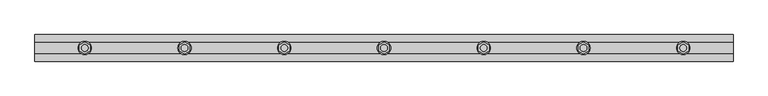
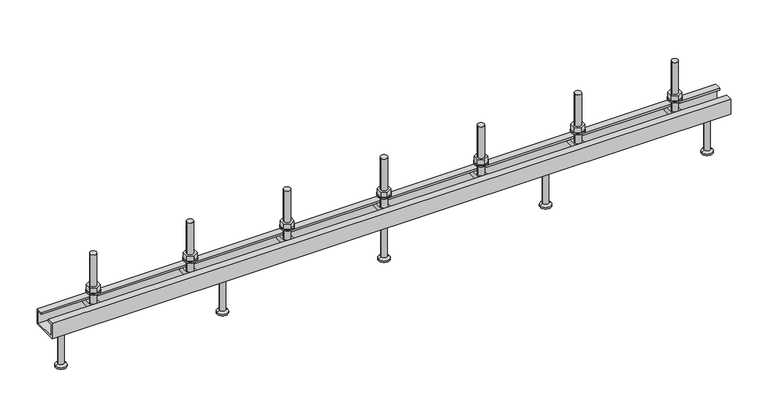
"""IFC4 building model written with IfcOpenShell, lengths in millimetres: fastener geometry, JTA-K JORDAHL® AnchorChannels : JTA-K L=1050 mm."""

from ifc_helpers import new_model, si_unit, point, frame, frame_2d, origin, place, context, project, spatial, polyline, circle_curve, trimmed, segment, composite_curve, outline, extrude, source, transform, mapped, element, save
from ifc_brep_helpers import plane_surface, cylinder_surface, revolved_surface, advanced_brep


def fastener_5b8b43c4(model_context):
    return source(origin(), model_context, "Body", "SolidModel", [
        extrude(outline(polyline([(825.0, -9.2376043), (817.0, -4.6188022), (817.0, 4.6188022), (825.0, 9.2376043), (833.0, 4.6188022), (833.0, -4.6188022), (825.0, -9.2376043)]), holes=[composite_curve([segment(trimmed(circle_curve(frame_2d((825.0, 0.0)), 5.0), [point((820.0, 0.0))], [point((830.0, 0.0))], True, "CARTESIAN"), True, "CONTINUOUS"), segment(trimmed(circle_curve(frame_2d((825.0, 0.0)), 5.0), [point((830.0, 0.0))], [point((820.0, 0.0))], True, "CARTESIAN"), True, "CONTINUOUS")], self_intersect=False)]), frame((0.0, 0.0, 17.0), z_axis=(0.0, 0.0, 1.0), x_axis=(1.0, 0.0, 0.0)), (0.0, 0.0, 1.0), 8.4),
        extrude(outline(composite_curve([segment(trimmed(circle_curve(frame_2d((825.0, 0.0)), 10.0), [point((815.0, 0.0))], [point((835.0, 0.0))], False, "CARTESIAN"), True, "CONTINUOUS"), segment(trimmed(circle_curve(frame_2d((825.0, 0.0)), 10.0), [point((835.0, 0.0))], [point((815.0, 0.0))], False, "CARTESIAN"), True, "CONTINUOUS")], self_intersect=False), holes=[composite_curve([segment(trimmed(circle_curve(frame_2d((825.0, 0.0)), 5.25), [point((819.75, 0.0))], [point((830.25, 0.0))], True, "CARTESIAN"), True, "CONTINUOUS"), segment(trimmed(circle_curve(frame_2d((825.0, 0.0)), 5.25), [point((830.25, 0.0))], [point((819.75, 0.0))], True, "CARTESIAN"), True, "CONTINUOUS")], self_intersect=False)]), frame((0.0, 0.0, 15.0), z_axis=(0.0, 0.0, 1.0), x_axis=(1.0, 0.0, 0.0)), (0.0, 0.0, 1.0), 2.0),
        extrude(outline(polyline([(675.0, -9.2376043), (667.0, -4.6188022), (667.0, 4.6188022), (675.0, 9.2376043), (683.0, 4.6188022), (683.0, -4.6188022), (675.0, -9.2376043)]), holes=[composite_curve([segment(trimmed(circle_curve(frame_2d((675.0, 0.0)), 5.0), [point((670.0, 0.0))], [point((680.0, 0.0))], True, "CARTESIAN"), True, "CONTINUOUS"), segment(trimmed(circle_curve(frame_2d((675.0, 0.0)), 5.0), [point((680.0, 0.0))], [point((670.0, 0.0))], True, "CARTESIAN"), True, "CONTINUOUS")], self_intersect=False)]), frame((0.0, 0.0, 17.0), z_axis=(0.0, 0.0, 1.0), x_axis=(1.0, 0.0, 0.0)), (0.0, 0.0, 1.0), 8.4),
        extrude(outline(composite_curve([segment(trimmed(circle_curve(frame_2d((675.0, 0.0)), 10.0), [point((665.0, 0.0))], [point((685.0, 0.0))], False, "CARTESIAN"), True, "CONTINUOUS"), segment(trimmed(circle_curve(frame_2d((675.0, 0.0)), 10.0), [point((685.0, 0.0))], [point((665.0, 0.0))], False, "CARTESIAN"), True, "CONTINUOUS")], self_intersect=False), holes=[composite_curve([segment(trimmed(circle_curve(frame_2d((675.0, 0.0)), 5.25), [point((669.75, 0.0))], [point((680.25, 0.0))], True, "CARTESIAN"), True, "CONTINUOUS"), segment(trimmed(circle_curve(frame_2d((675.0, 0.0)), 5.25), [point((680.25, 0.0))], [point((669.75, 0.0))], True, "CARTESIAN"), True, "CONTINUOUS")], self_intersect=False)]), frame((0.0, 0.0, 15.0), z_axis=(0.0, 0.0, 1.0), x_axis=(1.0, 0.0, 0.0)), (0.0, 0.0, 1.0), 2.0),
        extrude(outline(polyline([(525.0, -9.2376043), (517.0, -4.6188022), (517.0, 4.6188022), (525.0, 9.2376043), (533.0, 4.6188022), (533.0, -4.6188022), (525.0, -9.2376043)]), holes=[composite_curve([segment(trimmed(circle_curve(frame_2d((525.0, 0.0)), 5.0), [point((520.0, 0.0))], [point((530.0, 0.0))], True, "CARTESIAN"), True, "CONTINUOUS"), segment(trimmed(circle_curve(frame_2d((525.0, 0.0)), 5.0), [point((530.0, 0.0))], [point((520.0, 0.0))], True, "CARTESIAN"), True, "CONTINUOUS")], self_intersect=False)]), frame((0.0, 0.0, 17.0), z_axis=(0.0, 0.0, 1.0), x_axis=(1.0, 0.0, 0.0)), (0.0, 0.0, 1.0), 8.4),
        extrude(outline(composite_curve([segment(trimmed(circle_curve(frame_2d((525.0, 0.0)), 10.0), [point((515.0, 0.0))], [point((535.0, 0.0))], False, "CARTESIAN"), True, "CONTINUOUS"), segment(trimmed(circle_curve(frame_2d((525.0, 0.0)), 10.0), [point((535.0, 0.0))], [point((515.0, 0.0))], False, "CARTESIAN"), True, "CONTINUOUS")], self_intersect=False), holes=[composite_curve([segment(trimmed(circle_curve(frame_2d((525.0, 0.0)), 5.25), [point((519.75, 0.0))], [point((530.25, 0.0))], True, "CARTESIAN"), True, "CONTINUOUS"), segment(trimmed(circle_curve(frame_2d((525.0, 0.0)), 5.25), [point((530.25, 0.0))], [point((519.75, 0.0))], True, "CARTESIAN"), True, "CONTINUOUS")], self_intersect=False)]), frame((0.0, 0.0, 15.0), z_axis=(0.0, 0.0, 1.0), x_axis=(1.0, 0.0, 0.0)), (0.0, 0.0, 1.0), 2.0),
        extrude(outline(polyline([(375.0, -9.2376043), (367.0, -4.6188022), (367.0, 4.6188022), (375.0, 9.2376043), (383.0, 4.6188022), (383.0, -4.6188022), (375.0, -9.2376043)]), holes=[composite_curve([segment(trimmed(circle_curve(frame_2d((375.0, 0.0)), 5.0), [point((370.0, 0.0))], [point((380.0, 0.0))], True, "CARTESIAN"), True, "CONTINUOUS"), segment(trimmed(circle_curve(frame_2d((375.0, 0.0)), 5.0), [point((380.0, 0.0))], [point((370.0, 0.0))], True, "CARTESIAN"), True, "CONTINUOUS")], self_intersect=False)]), frame((0.0, 0.0, 17.0), z_axis=(0.0, 0.0, 1.0), x_axis=(1.0, 0.0, 0.0)), (0.0, 0.0, 1.0), 8.4),
        extrude(outline(composite_curve([segment(trimmed(circle_curve(frame_2d((375.0, 0.0)), 10.0), [point((365.0, 0.0))], [point((385.0, 0.0))], False, "CARTESIAN"), True, "CONTINUOUS"), segment(trimmed(circle_curve(frame_2d((375.0, 0.0)), 10.0), [point((385.0, 0.0))], [point((365.0, 0.0))], False, "CARTESIAN"), True, "CONTINUOUS")], self_intersect=False), holes=[composite_curve([segment(trimmed(circle_curve(frame_2d((375.0, 0.0)), 5.25), [point((369.75, 0.0))], [point((380.25, 0.0))], True, "CARTESIAN"), True, "CONTINUOUS"), segment(trimmed(circle_curve(frame_2d((375.0, 0.0)), 5.25), [point((380.25, 0.0))], [point((369.75, 0.0))], True, "CARTESIAN"), True, "CONTINUOUS")], self_intersect=False)]), frame((0.0, 0.0, 15.0), z_axis=(0.0, 0.0, 1.0), x_axis=(1.0, 0.0, 0.0)), (0.0, 0.0, 1.0), 2.0),
        extrude(outline(polyline([(225.0, -9.2376043), (217.0, -4.6188022), (217.0, 4.6188022), (225.0, 9.2376043), (233.0, 4.6188022), (233.0, -4.6188022), (225.0, -9.2376043)]), holes=[composite_curve([segment(trimmed(circle_curve(frame_2d((225.0, 0.0)), 5.0), [point((220.0, 0.0))], [point((230.0, 0.0))], True, "CARTESIAN"), True, "CONTINUOUS"), segment(trimmed(circle_curve(frame_2d((225.0, 0.0)), 5.0), [point((230.0, 0.0))], [point((220.0, 0.0))], True, "CARTESIAN"), True, "CONTINUOUS")], self_intersect=False)]), frame((0.0, 0.0, 17.0), z_axis=(0.0, 0.0, 1.0), x_axis=(1.0, 0.0, 0.0)), (0.0, 0.0, 1.0), 8.4),
        extrude(outline(composite_curve([segment(trimmed(circle_curve(frame_2d((225.0, 0.0)), 10.0), [point((215.0, 0.0))], [point((235.0, 0.0))], False, "CARTESIAN"), True, "CONTINUOUS"), segment(trimmed(circle_curve(frame_2d((225.0, 0.0)), 10.0), [point((235.0, 0.0))], [point((215.0, 0.0))], False, "CARTESIAN"), True, "CONTINUOUS")], self_intersect=False), holes=[composite_curve([segment(trimmed(circle_curve(frame_2d((225.0, 0.0)), 5.25), [point((219.75, 0.0))], [point((230.25, 0.0))], True, "CARTESIAN"), True, "CONTINUOUS"), segment(trimmed(circle_curve(frame_2d((225.0, 0.0)), 5.25), [point((230.25, 0.0))], [point((219.75, 0.0))], True, "CARTESIAN"), True, "CONTINUOUS")], self_intersect=False)]), frame((0.0, 0.0, 15.0), z_axis=(0.0, 0.0, 1.0), x_axis=(1.0, 0.0, 0.0)), (0.0, 0.0, 1.0), 2.0),
        advanced_brep(
        [(832.0, -16.0, -3.0), (832.0, -16.0, -11.0), (832.0, 16.0, -11.0), (832.0, 16.0, -3.0), (818.0, -16.0, -3.0), (818.0, 16.0, -3.0), (818.0, 16.0, -11.0), (818.0, -16.0, -11.0), (830.0, 0.0, -3.0), (820.0, 0.0, -3.0), (820.0, 0.0, 77.0), (830.0, 0.0, 77.0)],
        [
            (0, 1),
            (1, 2),
            (2, 3),
            (3, 0),
            (4, 5),
            (5, 6),
            (6, 7),
            (7, 4),
            (3, 5),
            (4, 0),
            (8, 9, circle_curve(frame((825.0, 0.0, -3.0), z_axis=(0.0, 0.0, -1.0), x_axis=(1.0, 0.0, 0.0)), 5.0)),
            (9, 8, circle_curve(frame((825.0, 0.0, -3.0), z_axis=(0.0, 0.0, -1.0), x_axis=(1.0, 0.0, 0.0)), 5.0)),
            (2, 6),
            (1, 7),
            (10, 11, circle_curve(frame((825.0, 0.0, 77.0), z_axis=(0.0, 0.0, 1.0), x_axis=(1.0, 0.0, 0.0)), 5.0)),
            (11, 10, circle_curve(frame((825.0, 0.0, 77.0), z_axis=(0.0, 0.0, 1.0), x_axis=(1.0, 0.0, 0.0)), 5.0)),
            (11, 8),
            (9, 10),
        ],
        [
            plane_surface(frame((832.0, 16.0, -3.0), z_axis=(1.0, 0.0, 0.0), x_axis=(0.0, 1.0, 0.0))),
            plane_surface(frame((818.0, 16.0, -3.0), z_axis=(-1.0, 0.0, 0.0), x_axis=(0.0, -1.0, 0.0))),
            plane_surface(frame((832.0, -16.0, -3.0), z_axis=(0.0, 0.0, 1.0), x_axis=(-1.0, 0.0, 0.0))),
            plane_surface(frame((832.0, 16.0, -3.0), z_axis=(0.0, 1.0, 0.0), x_axis=(-1.0, 0.0, 0.0))),
            plane_surface(frame((832.0, 16.0, -11.0), z_axis=(0.0, 0.0, -1.0), x_axis=(-1.0, 0.0, 0.0))),
            plane_surface(frame((832.0, -16.0, -11.0), z_axis=(0.0, -1.0, 0.0), x_axis=(-1.0, 0.0, 0.0))),
            plane_surface(frame((830.0, 0.0, 77.0), z_axis=(0.0, 0.0, 1.0), x_axis=(0.0, -1.0, 0.0))),
            cylinder_surface(frame((825.0, 0.0, -3.0), z_axis=(0.0, 0.0, 1.0), x_axis=(1.0, 0.0, 0.0)), 5.0),
        ],
        [
            (0, [[1, 2, 3, 4]]),
            (1, [[5, 6, 7, 8]]),
            (2, [[9, -5, 10, -4], [11, 12]]),
            (3, [[13, -6, -9, -3]]),
            (4, [[14, -7, -13, -2]]),
            (5, [[-10, -8, -14, -1]]),
            (6, [[15, 16]]),
            (7, [[17, -12, 18, -16]]),
            (7, [[-18, -11, -17, -15]]),
        ],
    ),
        advanced_brep(
        [(682.0, -16.0, -3.0), (682.0, -16.0, -11.0), (682.0, 16.0, -11.0), (682.0, 16.0, -3.0), (668.0, -16.0, -3.0), (668.0, 16.0, -3.0), (668.0, 16.0, -11.0), (668.0, -16.0, -11.0), (680.0, 0.0, -3.0), (670.0, 0.0, -3.0), (670.0, 0.0, 77.0), (680.0, 0.0, 77.0)],
        [
            (0, 1),
            (1, 2),
            (2, 3),
            (3, 0),
            (4, 5),
            (5, 6),
            (6, 7),
            (7, 4),
            (3, 5),
            (4, 0),
            (8, 9, circle_curve(frame((675.0, 0.0, -3.0), z_axis=(0.0, 0.0, -1.0), x_axis=(1.0, 0.0, 0.0)), 5.0)),
            (9, 8, circle_curve(frame((675.0, 0.0, -3.0), z_axis=(0.0, 0.0, -1.0), x_axis=(1.0, 0.0, 0.0)), 5.0)),
            (2, 6),
            (1, 7),
            (10, 11, circle_curve(frame((675.0, 0.0, 77.0), z_axis=(0.0, 0.0, 1.0), x_axis=(1.0, 0.0, 0.0)), 5.0)),
            (11, 10, circle_curve(frame((675.0, 0.0, 77.0), z_axis=(0.0, 0.0, 1.0), x_axis=(1.0, 0.0, 0.0)), 5.0)),
            (11, 8),
            (9, 10),
        ],
        [
            plane_surface(frame((682.0, 16.0, -3.0), z_axis=(1.0, 0.0, 0.0), x_axis=(0.0, 1.0, 0.0))),
            plane_surface(frame((668.0, 16.0, -3.0), z_axis=(-1.0, 0.0, 0.0), x_axis=(0.0, -1.0, 0.0))),
            plane_surface(frame((682.0, -16.0, -3.0), z_axis=(0.0, 0.0, 1.0), x_axis=(-1.0, 0.0, 0.0))),
            plane_surface(frame((682.0, 16.0, -3.0), z_axis=(0.0, 1.0, 0.0), x_axis=(-1.0, 0.0, 0.0))),
            plane_surface(frame((682.0, 16.0, -11.0), z_axis=(0.0, 0.0, -1.0), x_axis=(-1.0, 0.0, 0.0))),
            plane_surface(frame((682.0, -16.0, -11.0), z_axis=(0.0, -1.0, 0.0), x_axis=(-1.0, 0.0, 0.0))),
            plane_surface(frame((680.0, 0.0, 77.0), z_axis=(0.0, 0.0, 1.0), x_axis=(0.0, -1.0, 0.0))),
            cylinder_surface(frame((675.0, 0.0, -3.0), z_axis=(0.0, 0.0, 1.0), x_axis=(1.0, 0.0, 0.0)), 5.0),
        ],
        [
            (0, [[1, 2, 3, 4]]),
            (1, [[5, 6, 7, 8]]),
            (2, [[9, -5, 10, -4], [11, 12]]),
            (3, [[13, -6, -9, -3]]),
            (4, [[14, -7, -13, -2]]),
            (5, [[-10, -8, -14, -1]]),
            (6, [[15, 16]]),
            (7, [[17, -12, 18, -16]]),
            (7, [[-18, -11, -17, -15]]),
        ],
    ),
        advanced_brep(
        [(532.0, -16.0, -3.0), (532.0, -16.0, -11.0), (532.0, 16.0, -11.0), (532.0, 16.0, -3.0), (518.0, -16.0, -3.0), (518.0, 16.0, -3.0), (518.0, 16.0, -11.0), (518.0, -16.0, -11.0), (530.0, 0.0, -3.0), (520.0, 0.0, -3.0), (520.0, 0.0, 77.0), (530.0, 0.0, 77.0)],
        [
            (0, 1),
            (1, 2),
            (2, 3),
            (3, 0),
            (4, 5),
            (5, 6),
            (6, 7),
            (7, 4),
            (3, 5),
            (4, 0),
            (8, 9, circle_curve(frame((525.0, 0.0, -3.0), z_axis=(0.0, 0.0, -1.0), x_axis=(1.0, 0.0, 0.0)), 5.0)),
            (9, 8, circle_curve(frame((525.0, 0.0, -3.0), z_axis=(0.0, 0.0, -1.0), x_axis=(1.0, 0.0, 0.0)), 5.0)),
            (2, 6),
            (1, 7),
            (10, 11, circle_curve(frame((525.0, 0.0, 77.0), z_axis=(0.0, 0.0, 1.0), x_axis=(1.0, 0.0, 0.0)), 5.0)),
            (11, 10, circle_curve(frame((525.0, 0.0, 77.0), z_axis=(0.0, 0.0, 1.0), x_axis=(1.0, 0.0, 0.0)), 5.0)),
            (11, 8),
            (9, 10),
        ],
        [
            plane_surface(frame((532.0, 16.0, -3.0), z_axis=(1.0, 0.0, 0.0), x_axis=(0.0, 1.0, 0.0))),
            plane_surface(frame((518.0, 16.0, -3.0), z_axis=(-1.0, 0.0, 0.0), x_axis=(0.0, -1.0, 0.0))),
            plane_surface(frame((532.0, -16.0, -3.0), z_axis=(0.0, 0.0, 1.0), x_axis=(-1.0, 0.0, 0.0))),
            plane_surface(frame((532.0, 16.0, -3.0), z_axis=(0.0, 1.0, 0.0), x_axis=(-1.0, 0.0, 0.0))),
            plane_surface(frame((532.0, 16.0, -11.0), z_axis=(0.0, 0.0, -1.0), x_axis=(-1.0, 0.0, 0.0))),
            plane_surface(frame((532.0, -16.0, -11.0), z_axis=(0.0, -1.0, 0.0), x_axis=(-1.0, 0.0, 0.0))),
            plane_surface(frame((530.0, 0.0, 77.0), z_axis=(0.0, 0.0, 1.0), x_axis=(0.0, -1.0, 0.0))),
            cylinder_surface(frame((525.0, 0.0, -3.0), z_axis=(0.0, 0.0, 1.0), x_axis=(1.0, 0.0, 0.0)), 5.0),
        ],
        [
            (0, [[1, 2, 3, 4]]),
            (1, [[5, 6, 7, 8]]),
            (2, [[9, -5, 10, -4], [11, 12]]),
            (3, [[13, -6, -9, -3]]),
            (4, [[14, -7, -13, -2]]),
            (5, [[-10, -8, -14, -1]]),
            (6, [[15, 16]]),
            (7, [[17, -12, 18, -16]]),
            (7, [[-18, -11, -17, -15]]),
        ],
    ),
        advanced_brep(
        [(382.0, -16.0, -3.0), (382.0, -16.0, -11.0), (382.0, 16.0, -11.0), (382.0, 16.0, -3.0), (368.0, -16.0, -3.0), (368.0, 16.0, -3.0), (368.0, 16.0, -11.0), (368.0, -16.0, -11.0), (380.0, 0.0, -3.0), (370.0, 0.0, -3.0), (370.0, 0.0, 77.0), (380.0, 0.0, 77.0)],
        [
            (0, 1),
            (1, 2),
            (2, 3),
            (3, 0),
            (4, 5),
            (5, 6),
            (6, 7),
            (7, 4),
            (3, 5),
            (4, 0),
            (8, 9, circle_curve(frame((375.0, 0.0, -3.0), z_axis=(0.0, 0.0, -1.0), x_axis=(1.0, 0.0, 0.0)), 5.0)),
            (9, 8, circle_curve(frame((375.0, 0.0, -3.0), z_axis=(0.0, 0.0, -1.0), x_axis=(1.0, 0.0, 0.0)), 5.0)),
            (2, 6),
            (1, 7),
            (10, 11, circle_curve(frame((375.0, 0.0, 77.0), z_axis=(0.0, 0.0, 1.0), x_axis=(1.0, 0.0, 0.0)), 5.0)),
            (11, 10, circle_curve(frame((375.0, 0.0, 77.0), z_axis=(0.0, 0.0, 1.0), x_axis=(1.0, 0.0, 0.0)), 5.0)),
            (11, 8),
            (9, 10),
        ],
        [
            plane_surface(frame((382.0, 16.0, -3.0), z_axis=(1.0, 0.0, 0.0), x_axis=(0.0, 1.0, 0.0))),
            plane_surface(frame((368.0, 16.0, -3.0), z_axis=(-1.0, 0.0, 0.0), x_axis=(0.0, -1.0, 0.0))),
            plane_surface(frame((382.0, -16.0, -3.0), z_axis=(0.0, 0.0, 1.0), x_axis=(-1.0, 0.0, 0.0))),
            plane_surface(frame((382.0, 16.0, -3.0), z_axis=(0.0, 1.0, 0.0), x_axis=(-1.0, 0.0, 0.0))),
            plane_surface(frame((382.0, 16.0, -11.0), z_axis=(0.0, 0.0, -1.0), x_axis=(-1.0, 0.0, 0.0))),
            plane_surface(frame((382.0, -16.0, -11.0), z_axis=(0.0, -1.0, 0.0), x_axis=(-1.0, 0.0, 0.0))),
            plane_surface(frame((380.0, 0.0, 77.0), z_axis=(0.0, 0.0, 1.0), x_axis=(0.0, -1.0, 0.0))),
            cylinder_surface(frame((375.0, 0.0, -3.0), z_axis=(0.0, 0.0, 1.0), x_axis=(1.0, 0.0, 0.0)), 5.0),
        ],
        [
            (0, [[1, 2, 3, 4]]),
            (1, [[5, 6, 7, 8]]),
            (2, [[9, -5, 10, -4], [11, 12]]),
            (3, [[13, -6, -9, -3]]),
            (4, [[14, -7, -13, -2]]),
            (5, [[-10, -8, -14, -1]]),
            (6, [[15, 16]]),
            (7, [[17, -12, 18, -16]]),
            (7, [[-18, -11, -17, -15]]),
        ],
    ),
        advanced_brep(
        [(232.0, -16.0, -3.0), (232.0, -16.0, -11.0), (232.0, 16.0, -11.0), (232.0, 16.0, -3.0), (218.0, -16.0, -3.0), (218.0, 16.0, -3.0), (218.0, 16.0, -11.0), (218.0, -16.0, -11.0), (230.0, 0.0, -3.0), (220.0, 0.0, -3.0), (220.0, 0.0, 77.0), (230.0, 0.0, 77.0)],
        [
            (0, 1),
            (1, 2),
            (2, 3),
            (3, 0),
            (4, 5),
            (5, 6),
            (6, 7),
            (7, 4),
            (3, 5),
            (4, 0),
            (8, 9, circle_curve(frame((225.0, 0.0, -3.0), z_axis=(0.0, 0.0, -1.0), x_axis=(1.0, 0.0, 0.0)), 5.0)),
            (9, 8, circle_curve(frame((225.0, 0.0, -3.0), z_axis=(0.0, 0.0, -1.0), x_axis=(1.0, 0.0, 0.0)), 5.0)),
            (2, 6),
            (1, 7),
            (10, 11, circle_curve(frame((225.0, 0.0, 77.0), z_axis=(0.0, 0.0, 1.0), x_axis=(1.0, 0.0, 0.0)), 5.0)),
            (11, 10, circle_curve(frame((225.0, 0.0, 77.0), z_axis=(0.0, 0.0, 1.0), x_axis=(1.0, 0.0, 0.0)), 5.0)),
            (11, 8),
            (9, 10),
        ],
        [
            plane_surface(frame((232.0, 16.0, -3.0), z_axis=(1.0, 0.0, 0.0), x_axis=(0.0, 1.0, 0.0))),
            plane_surface(frame((218.0, 16.0, -3.0), z_axis=(-1.0, 0.0, 0.0), x_axis=(0.0, -1.0, 0.0))),
            plane_surface(frame((232.0, -16.0, -3.0), z_axis=(0.0, 0.0, 1.0), x_axis=(-1.0, 0.0, 0.0))),
            plane_surface(frame((232.0, 16.0, -3.0), z_axis=(0.0, 1.0, 0.0), x_axis=(-1.0, 0.0, 0.0))),
            plane_surface(frame((232.0, 16.0, -11.0), z_axis=(0.0, 0.0, -1.0), x_axis=(-1.0, 0.0, 0.0))),
            plane_surface(frame((232.0, -16.0, -11.0), z_axis=(0.0, -1.0, 0.0), x_axis=(-1.0, 0.0, 0.0))),
            plane_surface(frame((230.0, 0.0, 77.0), z_axis=(0.0, 0.0, 1.0), x_axis=(0.0, -1.0, 0.0))),
            cylinder_surface(frame((225.0, 0.0, -3.0), z_axis=(0.0, 0.0, 1.0), x_axis=(1.0, 0.0, 0.0)), 5.0),
        ],
        [
            (0, [[1, 2, 3, 4]]),
            (1, [[5, 6, 7, 8]]),
            (2, [[9, -5, 10, -4], [11, 12]]),
            (3, [[13, -6, -9, -3]]),
            (4, [[14, -7, -13, -2]]),
            (5, [[-10, -8, -14, -1]]),
            (6, [[15, 16]]),
            (7, [[17, -12, 18, -16]]),
            (7, [[-18, -11, -17, -15]]),
        ],
    ),
        advanced_brep(
        [(775.0, 0.0, -25.0), (761.5, 0.0, -25.0), (788.5, 0.0, -25.0), (766.5, 0.0, -90.0), (775.0, 0.0, -90.0), (783.5, 0.0, -90.0), (766.5, 0.0, -88.0), (783.5, 0.0, -88.0), (770.5, 0.0, -85.6905989), (779.5, 0.0, -85.6905989), (770.5, 0.0, -27.5), (779.5, 0.0, -27.5)],
        [
            (0, 1),
            (1, 2, circle_curve(frame((775.0, 0.0, -25.0), z_axis=(0.0, 0.0, 1.0), x_axis=(1.0, 0.0, 0.0)), 13.5)),
            (2, 0),
            (2, 1, circle_curve(frame((775.0, 0.0, -25.0), z_axis=(0.0, 0.0, 1.0), x_axis=(1.0, 0.0, 0.0)), 13.5)),
            (3, 4),
            (4, 5),
            (5, 3, circle_curve(frame((775.0, 0.0, -90.0), z_axis=(0.0, 0.0, -1.0), x_axis=(1.0, 0.0, 0.0)), 8.5)),
            (3, 5, circle_curve(frame((775.0, 0.0, -90.0), z_axis=(0.0, 0.0, -1.0), x_axis=(1.0, 0.0, 0.0)), 8.5)),
            (6, 3),
            (5, 7),
            (7, 6, circle_curve(frame((775.0, 0.0, -88.0), z_axis=(0.0, 0.0, -1.0), x_axis=(1.0, 0.0, 0.0)), 8.5)),
            (6, 7, circle_curve(frame((775.0, 0.0, -88.0), z_axis=(0.0, 0.0, -1.0), x_axis=(1.0, 0.0, 0.0)), 8.5)),
            (8, 6),
            (7, 9),
            (9, 8, circle_curve(frame((775.0, 0.0, -85.6905989), z_axis=(0.0, 0.0, -1.0), x_axis=(1.0, 0.0, 0.0)), 4.5)),
            (8, 9, circle_curve(frame((775.0, 0.0, -85.6905989), z_axis=(0.0, 0.0, -1.0), x_axis=(1.0, 0.0, 0.0)), 4.5)),
            (10, 8),
            (9, 11),
            (11, 10, circle_curve(frame((775.0, 0.0, -27.5), z_axis=(0.0, 0.0, -1.0), x_axis=(1.0, 0.0, 0.0)), 4.5)),
            (10, 11, circle_curve(frame((775.0, 0.0, -27.5), z_axis=(0.0, 0.0, -1.0), x_axis=(1.0, 0.0, 0.0)), 4.5)),
            (1, 10),
            (11, 2),
        ],
        [
            plane_surface(frame((775.0, 0.0, -25.0), z_axis=(0.0, 0.0, 1.0), x_axis=(1.0, 0.0, 0.0))),
            plane_surface(frame((775.0, 0.0, -90.0), z_axis=(0.0, 0.0, -1.0), x_axis=(1.0, 0.0, 0.0))),
            cylinder_surface(frame((775.0, 0.0, 2279.3150031), z_axis=(0.0, 0.0, 1.0), x_axis=(1.0, 0.0, 0.0)), 8.5),
            revolved_surface(polyline([(783.5, 0.0, -88.0), (779.5, 0.0, -85.6905989)]), (775.0, 0.0, 2279.3150031), (0.0, 0.0, 1.0)),
            cylinder_surface(frame((775.0, 0.0, 2279.3150031), z_axis=(0.0, 0.0, 1.0), x_axis=(1.0, 0.0, 0.0)), 4.5),
            revolved_surface(polyline([(779.5, 0.0, -27.5), (788.5, 0.0, -25.0)]), (775.0, 0.0, 2279.3150031), (0.0, 0.0, 1.0)),
        ],
        [
            (0, [[1, 2, 3]]),
            (0, [[-3, 4, -1]]),
            (1, [[5, 6, 7]]),
            (1, [[-6, -5, 8]]),
            (2, [[9, -7, 10, 11]]),
            (2, [[-10, -8, -9, 12]]),
            (3, [[13, -11, 14, 15]]),
            (3, [[-14, -12, -13, 16]]),
            (4, [[17, -15, 18, 19]]),
            (4, [[-18, -16, -17, 20]]),
            (5, [[21, -19, 22, -2]]),
            (5, [[-22, -20, -21, -4]]),
        ],
    ),
        advanced_brep(
        [(525.0, 0.0, -25.0), (511.5, 0.0, -25.0), (538.5, 0.0, -25.0), (516.5, 0.0, -90.0), (525.0, 0.0, -90.0), (533.5, 0.0, -90.0), (516.5, 0.0, -88.0), (533.5, 0.0, -88.0), (520.5, 0.0, -85.6905989), (529.5, 0.0, -85.6905989), (520.5, 0.0, -27.5), (529.5, 0.0, -27.5)],
        [
            (0, 1),
            (1, 2, circle_curve(frame((525.0, 0.0, -25.0), z_axis=(0.0, 0.0, 1.0), x_axis=(1.0, 0.0, 0.0)), 13.5)),
            (2, 0),
            (2, 1, circle_curve(frame((525.0, 0.0, -25.0), z_axis=(0.0, 0.0, 1.0), x_axis=(1.0, 0.0, 0.0)), 13.5)),
            (3, 4),
            (4, 5),
            (5, 3, circle_curve(frame((525.0, 0.0, -90.0), z_axis=(0.0, 0.0, -1.0), x_axis=(1.0, 0.0, 0.0)), 8.5)),
            (3, 5, circle_curve(frame((525.0, 0.0, -90.0), z_axis=(0.0, 0.0, -1.0), x_axis=(1.0, 0.0, 0.0)), 8.5)),
            (6, 3),
            (5, 7),
            (7, 6, circle_curve(frame((525.0, 0.0, -88.0), z_axis=(0.0, 0.0, -1.0), x_axis=(1.0, 0.0, 0.0)), 8.5)),
            (6, 7, circle_curve(frame((525.0, 0.0, -88.0), z_axis=(0.0, 0.0, -1.0), x_axis=(1.0, 0.0, 0.0)), 8.5)),
            (8, 6),
            (7, 9),
            (9, 8, circle_curve(frame((525.0, 0.0, -85.6905989), z_axis=(0.0, 0.0, -1.0), x_axis=(1.0, 0.0, 0.0)), 4.5)),
            (8, 9, circle_curve(frame((525.0, 0.0, -85.6905989), z_axis=(0.0, 0.0, -1.0), x_axis=(1.0, 0.0, 0.0)), 4.5)),
            (10, 8),
            (9, 11),
            (11, 10, circle_curve(frame((525.0, 0.0, -27.5), z_axis=(0.0, 0.0, -1.0), x_axis=(1.0, 0.0, 0.0)), 4.5)),
            (10, 11, circle_curve(frame((525.0, 0.0, -27.5), z_axis=(0.0, 0.0, -1.0), x_axis=(1.0, 0.0, 0.0)), 4.5)),
            (1, 10),
            (11, 2),
        ],
        [
            plane_surface(frame((525.0, 0.0, -25.0), z_axis=(0.0, 0.0, 1.0), x_axis=(1.0, 0.0, 0.0))),
            plane_surface(frame((525.0, 0.0, -90.0), z_axis=(0.0, 0.0, -1.0), x_axis=(1.0, 0.0, 0.0))),
            cylinder_surface(frame((525.0, 0.0, 2279.3150031), z_axis=(0.0, 0.0, 1.0), x_axis=(1.0, 0.0, 0.0)), 8.5),
            revolved_surface(polyline([(533.5, 0.0, -88.0), (529.5, 0.0, -85.6905989)]), (525.0, 0.0, 2279.3150031), (0.0, 0.0, 1.0)),
            cylinder_surface(frame((525.0, 0.0, 2279.3150031), z_axis=(0.0, 0.0, 1.0), x_axis=(1.0, 0.0, 0.0)), 4.5),
            revolved_surface(polyline([(529.5, 0.0, -27.5), (538.5, 0.0, -25.0)]), (525.0, 0.0, 2279.3150031), (0.0, 0.0, 1.0)),
        ],
        [
            (0, [[1, 2, 3]]),
            (0, [[-3, 4, -1]]),
            (1, [[5, 6, 7]]),
            (1, [[-6, -5, 8]]),
            (2, [[9, -7, 10, 11]]),
            (2, [[-10, -8, -9, 12]]),
            (3, [[13, -11, 14, 15]]),
            (3, [[-14, -12, -13, 16]]),
            (4, [[17, -15, 18, 19]]),
            (4, [[-18, -16, -17, 20]]),
            (5, [[21, -19, 22, -2]]),
            (5, [[-22, -20, -21, -4]]),
        ],
    ),
        advanced_brep(
        [(275.0, 0.0, -25.0), (261.5, 0.0, -25.0), (288.5, 0.0, -25.0), (266.5, 0.0, -90.0), (275.0, 0.0, -90.0), (283.5, 0.0, -90.0), (266.5, 0.0, -88.0), (283.5, 0.0, -88.0), (270.5, 0.0, -85.6905989), (279.5, 0.0, -85.6905989), (270.5, 0.0, -27.5), (279.5, 0.0, -27.5)],
        [
            (0, 1),
            (1, 2, circle_curve(frame((275.0, 0.0, -25.0), z_axis=(0.0, 0.0, 1.0), x_axis=(1.0, 0.0, 0.0)), 13.5)),
            (2, 0),
            (2, 1, circle_curve(frame((275.0, 0.0, -25.0), z_axis=(0.0, 0.0, 1.0), x_axis=(1.0, 0.0, 0.0)), 13.5)),
            (3, 4),
            (4, 5),
            (5, 3, circle_curve(frame((275.0, 0.0, -90.0), z_axis=(0.0, 0.0, -1.0), x_axis=(1.0, 0.0, 0.0)), 8.5)),
            (3, 5, circle_curve(frame((275.0, 0.0, -90.0), z_axis=(0.0, 0.0, -1.0), x_axis=(1.0, 0.0, 0.0)), 8.5)),
            (6, 3),
            (5, 7),
            (7, 6, circle_curve(frame((275.0, 0.0, -88.0), z_axis=(0.0, 0.0, -1.0), x_axis=(1.0, 0.0, 0.0)), 8.5)),
            (6, 7, circle_curve(frame((275.0, 0.0, -88.0), z_axis=(0.0, 0.0, -1.0), x_axis=(1.0, 0.0, 0.0)), 8.5)),
            (8, 6),
            (7, 9),
            (9, 8, circle_curve(frame((275.0, 0.0, -85.6905989), z_axis=(0.0, 0.0, -1.0), x_axis=(1.0, 0.0, 0.0)), 4.5)),
            (8, 9, circle_curve(frame((275.0, 0.0, -85.6905989), z_axis=(0.0, 0.0, -1.0), x_axis=(1.0, 0.0, 0.0)), 4.5)),
            (10, 8),
            (9, 11),
            (11, 10, circle_curve(frame((275.0, 0.0, -27.5), z_axis=(0.0, 0.0, -1.0), x_axis=(1.0, 0.0, 0.0)), 4.5)),
            (10, 11, circle_curve(frame((275.0, 0.0, -27.5), z_axis=(0.0, 0.0, -1.0), x_axis=(1.0, 0.0, 0.0)), 4.5)),
            (1, 10),
            (11, 2),
        ],
        [
            plane_surface(frame((275.0, 0.0, -25.0), z_axis=(0.0, 0.0, 1.0), x_axis=(1.0, 0.0, 0.0))),
            plane_surface(frame((275.0, 0.0, -90.0), z_axis=(0.0, 0.0, -1.0), x_axis=(1.0, 0.0, 0.0))),
            cylinder_surface(frame((275.0, 0.0, 2279.3150031), z_axis=(0.0, 0.0, 1.0), x_axis=(1.0, 0.0, 0.0)), 8.5),
            revolved_surface(polyline([(283.5, 0.0, -88.0), (279.5, 0.0, -85.6905989)]), (275.0, 0.0, 2279.3150031), (0.0, 0.0, 1.0)),
            cylinder_surface(frame((275.0, 0.0, 2279.3150031), z_axis=(0.0, 0.0, 1.0), x_axis=(1.0, 0.0, 0.0)), 4.5),
            revolved_surface(polyline([(279.5, 0.0, -27.5), (288.5, 0.0, -25.0)]), (275.0, 0.0, 2279.3150031), (0.0, 0.0, 1.0)),
        ],
        [
            (0, [[1, 2, 3]]),
            (0, [[-3, 4, -1]]),
            (1, [[5, 6, 7]]),
            (1, [[-6, -5, 8]]),
            (2, [[9, -7, 10, 11]]),
            (2, [[-10, -8, -9, 12]]),
            (3, [[13, -11, 14, 15]]),
            (3, [[-14, -12, -13, 16]]),
            (4, [[17, -15, 18, 19]]),
            (4, [[-18, -16, -17, 20]]),
            (5, [[21, -19, 22, -2]]),
            (5, [[-22, -20, -21, -4]]),
        ],
    ),
        extrude(outline(polyline([(975.0, -9.2376043), (967.0, -4.6188022), (967.0, 4.6188022), (975.0, 9.2376043), (983.0, 4.6188022), (983.0, -4.6188022), (975.0, -9.2376043)]), holes=[composite_curve([segment(trimmed(circle_curve(frame_2d((975.0, 0.0)), 5.0), [point((970.0, 0.0))], [point((980.0, 0.0))], True, "CARTESIAN"), True, "CONTINUOUS"), segment(trimmed(circle_curve(frame_2d((975.0, 0.0)), 5.0), [point((980.0, 0.0))], [point((970.0, 0.0))], True, "CARTESIAN"), True, "CONTINUOUS")], self_intersect=False)]), frame((0.0, 0.0, 17.0), z_axis=(0.0, 0.0, 1.0), x_axis=(1.0, 0.0, 0.0)), (0.0, 0.0, 1.0), 8.4),
        extrude(outline(composite_curve([segment(trimmed(circle_curve(frame_2d((975.0, 0.0)), 10.0), [point((965.0, 0.0))], [point((985.0, 0.0))], False, "CARTESIAN"), True, "CONTINUOUS"), segment(trimmed(circle_curve(frame_2d((975.0, 0.0)), 10.0), [point((985.0, 0.0))], [point((965.0, 0.0))], False, "CARTESIAN"), True, "CONTINUOUS")], self_intersect=False), holes=[composite_curve([segment(trimmed(circle_curve(frame_2d((975.0, 0.0)), 5.25), [point((969.75, 0.0))], [point((980.25, 0.0))], True, "CARTESIAN"), True, "CONTINUOUS"), segment(trimmed(circle_curve(frame_2d((975.0, 0.0)), 5.25), [point((980.25, 0.0))], [point((969.75, 0.0))], True, "CARTESIAN"), True, "CONTINUOUS")], self_intersect=False)]), frame((0.0, 0.0, 15.0), z_axis=(0.0, 0.0, 1.0), x_axis=(1.0, 0.0, 0.0)), (0.0, 0.0, 1.0), 2.0),
        extrude(outline(polyline([(75.0, -9.2376043), (67.0, -4.6188022), (67.0, 4.6188022), (75.0, 9.2376043), (83.0, 4.6188022), (83.0, -4.6188022), (75.0, -9.2376043)]), holes=[composite_curve([segment(trimmed(circle_curve(frame_2d((75.0, 0.0)), 5.0), [point((70.0, 0.0))], [point((80.0, 0.0))], True, "CARTESIAN"), True, "CONTINUOUS"), segment(trimmed(circle_curve(frame_2d((75.0, 0.0)), 5.0), [point((80.0, 0.0))], [point((70.0, 0.0))], True, "CARTESIAN"), True, "CONTINUOUS")], self_intersect=False)]), frame((0.0, 0.0, 17.0), z_axis=(0.0, 0.0, 1.0), x_axis=(1.0, 0.0, 0.0)), (0.0, 0.0, 1.0), 8.4),
        extrude(outline(composite_curve([segment(trimmed(circle_curve(frame_2d((75.0, 0.0)), 10.0), [point((65.0, 0.0))], [point((85.0, 0.0))], False, "CARTESIAN"), True, "CONTINUOUS"), segment(trimmed(circle_curve(frame_2d((75.0, 0.0)), 10.0), [point((85.0, 0.0))], [point((65.0, 0.0))], False, "CARTESIAN"), True, "CONTINUOUS")], self_intersect=False), holes=[composite_curve([segment(trimmed(circle_curve(frame_2d((75.0, 0.0)), 5.25), [point((69.75, 0.0))], [point((80.25, 0.0))], True, "CARTESIAN"), True, "CONTINUOUS"), segment(trimmed(circle_curve(frame_2d((75.0, 0.0)), 5.25), [point((80.25, 0.0))], [point((69.75, 0.0))], True, "CARTESIAN"), True, "CONTINUOUS")], self_intersect=False)]), frame((0.0, 0.0, 15.0), z_axis=(0.0, 0.0, 1.0), x_axis=(1.0, 0.0, 0.0)), (0.0, 0.0, 1.0), 2.0),
        advanced_brep(
        [(982.0, -16.0, -3.0), (982.0, -16.0, -11.0), (982.0, 16.0, -11.0), (982.0, 16.0, -3.0), (968.0, -16.0, -3.0), (968.0, 16.0, -3.0), (968.0, 16.0, -11.0), (968.0, -16.0, -11.0), (980.0, 0.0, -3.0), (970.0, 0.0, -3.0), (970.0, 0.0, 77.0), (980.0, 0.0, 77.0)],
        [
            (0, 1),
            (1, 2),
            (2, 3),
            (3, 0),
            (4, 5),
            (5, 6),
            (6, 7),
            (7, 4),
            (3, 5),
            (4, 0),
            (8, 9, circle_curve(frame((975.0, 0.0, -3.0), z_axis=(0.0, 0.0, -1.0), x_axis=(1.0, 0.0, 0.0)), 5.0)),
            (9, 8, circle_curve(frame((975.0, 0.0, -3.0), z_axis=(0.0, 0.0, -1.0), x_axis=(1.0, 0.0, 0.0)), 5.0)),
            (2, 6),
            (1, 7),
            (10, 11, circle_curve(frame((975.0, 0.0, 77.0), z_axis=(0.0, 0.0, 1.0), x_axis=(1.0, 0.0, 0.0)), 5.0)),
            (11, 10, circle_curve(frame((975.0, 0.0, 77.0), z_axis=(0.0, 0.0, 1.0), x_axis=(1.0, 0.0, 0.0)), 5.0)),
            (11, 8),
            (9, 10),
        ],
        [
            plane_surface(frame((982.0, 16.0, -3.0), z_axis=(1.0, 0.0, 0.0), x_axis=(0.0, 1.0, 0.0))),
            plane_surface(frame((968.0, 16.0, -3.0), z_axis=(-1.0, 0.0, 0.0), x_axis=(0.0, -1.0, 0.0))),
            plane_surface(frame((982.0, -16.0, -3.0), z_axis=(0.0, 0.0, 1.0), x_axis=(-1.0, 0.0, 0.0))),
            plane_surface(frame((982.0, 16.0, -3.0), z_axis=(0.0, 1.0, 0.0), x_axis=(-1.0, 0.0, 0.0))),
            plane_surface(frame((982.0, 16.0, -11.0), z_axis=(0.0, 0.0, -1.0), x_axis=(-1.0, 0.0, 0.0))),
            plane_surface(frame((982.0, -16.0, -11.0), z_axis=(0.0, -1.0, 0.0), x_axis=(-1.0, 0.0, 0.0))),
            plane_surface(frame((980.0, 0.0, 77.0), z_axis=(0.0, 0.0, 1.0), x_axis=(0.0, -1.0, 0.0))),
            cylinder_surface(frame((975.0, 0.0, -3.0), z_axis=(0.0, 0.0, 1.0), x_axis=(1.0, 0.0, 0.0)), 5.0),
        ],
        [
            (0, [[1, 2, 3, 4]]),
            (1, [[5, 6, 7, 8]]),
            (2, [[9, -5, 10, -4], [11, 12]]),
            (3, [[13, -6, -9, -3]]),
            (4, [[14, -7, -13, -2]]),
            (5, [[-10, -8, -14, -1]]),
            (6, [[15, 16]]),
            (7, [[17, -12, 18, -16]]),
            (7, [[-18, -11, -17, -15]]),
        ],
    ),
        advanced_brep(
        [(82.0, -16.0, -3.0), (82.0, -16.0, -11.0), (82.0, 16.0, -11.0), (82.0, 16.0, -3.0), (68.0, -16.0, -3.0), (68.0, 16.0, -3.0), (68.0, 16.0, -11.0), (68.0, -16.0, -11.0), (80.0, 0.0, -3.0), (70.0, 0.0, -3.0), (70.0, 0.0, 77.0), (80.0, 0.0, 77.0)],
        [
            (0, 1),
            (1, 2),
            (2, 3),
            (3, 0),
            (4, 5),
            (5, 6),
            (6, 7),
            (7, 4),
            (3, 5),
            (4, 0),
            (8, 9, circle_curve(frame((75.0, 0.0, -3.0), z_axis=(0.0, 0.0, -1.0), x_axis=(1.0, 0.0, 0.0)), 5.0)),
            (9, 8, circle_curve(frame((75.0, 0.0, -3.0), z_axis=(0.0, 0.0, -1.0), x_axis=(1.0, 0.0, 0.0)), 5.0)),
            (2, 6),
            (1, 7),
            (10, 11, circle_curve(frame((75.0, 0.0, 77.0), z_axis=(0.0, 0.0, 1.0), x_axis=(1.0, 0.0, 0.0)), 5.0)),
            (11, 10, circle_curve(frame((75.0, 0.0, 77.0), z_axis=(0.0, 0.0, 1.0), x_axis=(1.0, 0.0, 0.0)), 5.0)),
            (11, 8),
            (9, 10),
        ],
        [
            plane_surface(frame((82.0, 16.0, -3.0), z_axis=(1.0, 0.0, 0.0), x_axis=(0.0, 1.0, 0.0))),
            plane_surface(frame((68.0, 16.0, -3.0), z_axis=(-1.0, 0.0, 0.0), x_axis=(0.0, -1.0, 0.0))),
            plane_surface(frame((82.0, -16.0, -3.0), z_axis=(0.0, 0.0, 1.0), x_axis=(-1.0, 0.0, 0.0))),
            plane_surface(frame((82.0, 16.0, -3.0), z_axis=(0.0, 1.0, 0.0), x_axis=(-1.0, 0.0, 0.0))),
            plane_surface(frame((82.0, 16.0, -11.0), z_axis=(0.0, 0.0, -1.0), x_axis=(-1.0, 0.0, 0.0))),
            plane_surface(frame((82.0, -16.0, -11.0), z_axis=(0.0, -1.0, 0.0), x_axis=(-1.0, 0.0, 0.0))),
            plane_surface(frame((80.0, 0.0, 77.0), z_axis=(0.0, 0.0, 1.0), x_axis=(0.0, -1.0, 0.0))),
            cylinder_surface(frame((75.0, 0.0, -3.0), z_axis=(0.0, 0.0, 1.0), x_axis=(1.0, 0.0, 0.0)), 5.0),
        ],
        [
            (0, [[1, 2, 3, 4]]),
            (1, [[5, 6, 7, 8]]),
            (2, [[9, -5, 10, -4], [11, 12]]),
            (3, [[13, -6, -9, -3]]),
            (4, [[14, -7, -13, -2]]),
            (5, [[-10, -8, -14, -1]]),
            (6, [[15, 16]]),
            (7, [[17, -12, 18, -16]]),
            (7, [[-18, -11, -17, -15]]),
        ],
    ),
        advanced_brep(
        [(1025.0, 0.0, -25.0), (1011.5, 0.0, -25.0), (1038.5, 0.0, -25.0), (1016.5, 0.0, -90.0), (1025.0, 0.0, -90.0), (1033.5, 0.0, -90.0), (1016.5, 0.0, -88.0), (1033.5, 0.0, -88.0), (1020.5, 0.0, -85.6905989), (1029.5, 0.0, -85.6905989), (1020.5, 0.0, -27.5), (1029.5, 0.0, -27.5)],
        [
            (0, 1),
            (1, 2, circle_curve(frame((1025.0, 0.0, -25.0), z_axis=(0.0, 0.0, 1.0), x_axis=(1.0, 0.0, 0.0)), 13.5)),
            (2, 0),
            (2, 1, circle_curve(frame((1025.0, 0.0, -25.0), z_axis=(0.0, 0.0, 1.0), x_axis=(1.0, 0.0, 0.0)), 13.5)),
            (3, 4),
            (4, 5),
            (5, 3, circle_curve(frame((1025.0, 0.0, -90.0), z_axis=(0.0, 0.0, -1.0), x_axis=(1.0, 0.0, 0.0)), 8.5)),
            (3, 5, circle_curve(frame((1025.0, 0.0, -90.0), z_axis=(0.0, 0.0, -1.0), x_axis=(1.0, 0.0, 0.0)), 8.5)),
            (6, 3),
            (5, 7),
            (7, 6, circle_curve(frame((1025.0, 0.0, -88.0), z_axis=(0.0, 0.0, -1.0), x_axis=(1.0, 0.0, 0.0)), 8.5)),
            (6, 7, circle_curve(frame((1025.0, 0.0, -88.0), z_axis=(0.0, 0.0, -1.0), x_axis=(1.0, 0.0, 0.0)), 8.5)),
            (8, 6),
            (7, 9),
            (9, 8, circle_curve(frame((1025.0, 0.0, -85.6905989), z_axis=(0.0, 0.0, -1.0), x_axis=(1.0, 0.0, 0.0)), 4.5)),
            (8, 9, circle_curve(frame((1025.0, 0.0, -85.6905989), z_axis=(0.0, 0.0, -1.0), x_axis=(1.0, 0.0, 0.0)), 4.5)),
            (10, 8),
            (9, 11),
            (11, 10, circle_curve(frame((1025.0, 0.0, -27.5), z_axis=(0.0, 0.0, -1.0), x_axis=(1.0, 0.0, 0.0)), 4.5)),
            (10, 11, circle_curve(frame((1025.0, 0.0, -27.5), z_axis=(0.0, 0.0, -1.0), x_axis=(1.0, 0.0, 0.0)), 4.5)),
            (1, 10),
            (11, 2),
        ],
        [
            plane_surface(frame((1025.0, 0.0, -25.0), z_axis=(0.0, 0.0, 1.0), x_axis=(1.0, 0.0, 0.0))),
            plane_surface(frame((1025.0, 0.0, -90.0), z_axis=(0.0, 0.0, -1.0), x_axis=(1.0, 0.0, 0.0))),
            cylinder_surface(frame((1025.0, 0.0, 2279.3150031), z_axis=(0.0, 0.0, 1.0), x_axis=(1.0, 0.0, 0.0)), 8.5),
            revolved_surface(polyline([(1033.5, 0.0, -88.0), (1029.5, 0.0, -85.6905989)]), (1025.0, 0.0, 2279.3150031), (0.0, 0.0, 1.0)),
            cylinder_surface(frame((1025.0, 0.0, 2279.3150031), z_axis=(0.0, 0.0, 1.0), x_axis=(1.0, 0.0, 0.0)), 4.5),
            revolved_surface(polyline([(1029.5, 0.0, -27.5), (1038.5, 0.0, -25.0)]), (1025.0, 0.0, 2279.3150031), (0.0, 0.0, 1.0)),
        ],
        [
            (0, [[1, 2, 3]]),
            (0, [[-3, 4, -1]]),
            (1, [[5, 6, 7]]),
            (1, [[-6, -5, 8]]),
            (2, [[9, -7, 10, 11]]),
            (2, [[-10, -8, -9, 12]]),
            (3, [[13, -11, 14, 15]]),
            (3, [[-14, -12, -13, 16]]),
            (4, [[17, -15, 18, 19]]),
            (4, [[-18, -16, -17, 20]]),
            (5, [[21, -19, 22, -2]]),
            (5, [[-22, -20, -21, -4]]),
        ],
    ),
        advanced_brep(
        [(25.0, 0.0, -25.0), (11.5, 0.0, -25.0), (38.5, 0.0, -25.0), (16.5, 0.0, -90.0), (25.0, 0.0, -90.0), (33.5, 0.0, -90.0), (16.5, 0.0, -88.0), (33.5, 0.0, -88.0), (20.5, 0.0, -85.6905989), (29.5, 0.0, -85.6905989), (20.5, 0.0, -27.5), (29.5, 0.0, -27.5)],
        [
            (0, 1),
            (1, 2, circle_curve(frame((25.0, 0.0, -25.0), z_axis=(0.0, 0.0, 1.0), x_axis=(1.0, 0.0, 0.0)), 13.5)),
            (2, 0),
            (2, 1, circle_curve(frame((25.0, 0.0, -25.0), z_axis=(0.0, 0.0, 1.0), x_axis=(1.0, 0.0, 0.0)), 13.5)),
            (3, 4),
            (4, 5),
            (5, 3, circle_curve(frame((25.0, 0.0, -90.0), z_axis=(0.0, 0.0, -1.0), x_axis=(1.0, 0.0, 0.0)), 8.5)),
            (3, 5, circle_curve(frame((25.0, 0.0, -90.0), z_axis=(0.0, 0.0, -1.0), x_axis=(1.0, 0.0, 0.0)), 8.5)),
            (6, 3),
            (5, 7),
            (7, 6, circle_curve(frame((25.0, 0.0, -88.0), z_axis=(0.0, 0.0, -1.0), x_axis=(1.0, 0.0, 0.0)), 8.5)),
            (6, 7, circle_curve(frame((25.0, 0.0, -88.0), z_axis=(0.0, 0.0, -1.0), x_axis=(1.0, 0.0, 0.0)), 8.5)),
            (8, 6),
            (7, 9),
            (9, 8, circle_curve(frame((25.0, 0.0, -85.6905989), z_axis=(0.0, 0.0, -1.0), x_axis=(1.0, 0.0, 0.0)), 4.5)),
            (8, 9, circle_curve(frame((25.0, 0.0, -85.6905989), z_axis=(0.0, 0.0, -1.0), x_axis=(1.0, 0.0, 0.0)), 4.5)),
            (10, 8),
            (9, 11),
            (11, 10, circle_curve(frame((25.0, 0.0, -27.5), z_axis=(0.0, 0.0, -1.0), x_axis=(1.0, 0.0, 0.0)), 4.5)),
            (10, 11, circle_curve(frame((25.0, 0.0, -27.5), z_axis=(0.0, 0.0, -1.0), x_axis=(1.0, 0.0, 0.0)), 4.5)),
            (1, 10),
            (11, 2),
        ],
        [
            plane_surface(frame((25.0, 0.0, -25.0), z_axis=(0.0, 0.0, 1.0), x_axis=(1.0, 0.0, 0.0))),
            plane_surface(frame((25.0, 0.0, -90.0), z_axis=(0.0, 0.0, -1.0), x_axis=(1.0, 0.0, 0.0))),
            cylinder_surface(frame((25.0, 0.0, 2279.3150031), z_axis=(0.0, 0.0, 1.0), x_axis=(1.0, 0.0, 0.0)), 8.5),
            revolved_surface(polyline([(33.5, 0.0, -88.0), (29.5, 0.0, -85.6905989)]), (25.0, 0.0, 2279.3150031), (0.0, 0.0, 1.0)),
            cylinder_surface(frame((25.0, 0.0, 2279.3150031), z_axis=(0.0, 0.0, 1.0), x_axis=(1.0, 0.0, 0.0)), 4.5),
            revolved_surface(polyline([(29.5, 0.0, -27.5), (38.5, 0.0, -25.0)]), (25.0, 0.0, 2279.3150031), (0.0, 0.0, 1.0)),
        ],
        [
            (0, [[1, 2, 3]]),
            (0, [[-3, 4, -1]]),
            (1, [[5, 6, 7]]),
            (1, [[-6, -5, 8]]),
            (2, [[9, -7, 10, 11]]),
            (2, [[-10, -8, -9, 12]]),
            (3, [[13, -11, 14, 15]]),
            (3, [[-14, -12, -13, 16]]),
            (4, [[17, -15, 18, 19]]),
            (4, [[-18, -16, -17, 20]]),
            (5, [[21, -19, 22, -2]]),
            (5, [[-22, -20, -21, -4]]),
        ],
    ),
        extrude(outline(polyline([(-20.0, 0.0), (-9.0, 0.0), (-9.0, -3.0), (-17.0, -3.0), (-17.0, -22.0), (17.0, -22.0), (17.0, -3.0), (9.0, -3.0), (9.0, 0.0), (20.0, 0.0), (20.0, -25.0), (-20.0, -25.0), (-20.0, 0.0)])), frame((0.0, 0.0, 0.0), z_axis=(1.0, 0.0, 0.0), x_axis=(0.0, 1.0, 0.0)), (0.0, 0.0, 1.0), 1050.0),
    ])


if __name__ == "__main__":
    model = new_model("IFC4")
    model_context = context("Model", 3, world=origin())
    ifc_project = project(units=[si_unit("LENGTHUNIT", "METRE", prefix="MILLI")], contexts=[model_context])
    site = spatial("IfcSite", under=ifc_project)
    building = spatial("IfcBuilding", under=site)
    placement = place(None, origin())
    fastener_shape = fastener_5b8b43c4(model_context)
    element("IfcFastener", 1, ObjectType="JTA-K JORDAHL® AnchorChannels : JTA-K L=1050 mm", at=placement, inside=building, context=model_context, shape_type="MappedRepresentation", body=[
        mapped(fastener_shape, transform((0.0, 0.0, 0.0), x_axis=(1.0, 0.0, 0.0), y_axis=(0.0, 1.0, 0.0), z_axis=(0.0, 0.0, 1.0))),
    ])
    save(model, "model.ifc")
